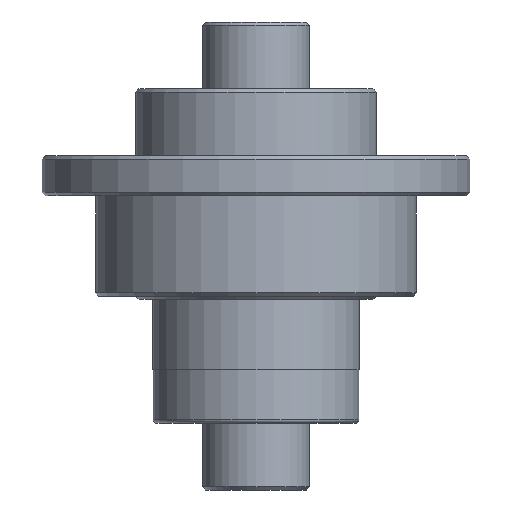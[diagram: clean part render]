
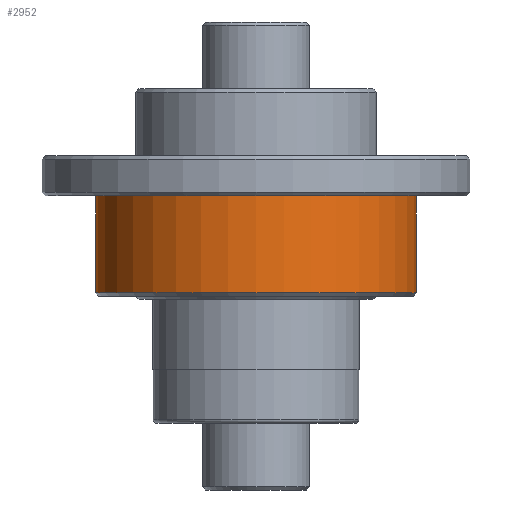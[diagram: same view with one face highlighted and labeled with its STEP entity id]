
A CAD part, front view. The second image highlights one B-rep face of the part: STEP entity #2952.
In plain terms, the highlighted cylindrical face has radius 24 mm (diameter 48 mm), a partial arc.
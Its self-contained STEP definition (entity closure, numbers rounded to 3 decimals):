
#195 = DIRECTION ( 'NONE',  ( 1., 0., 0. ) ) ;
#235 = ORIENTED_EDGE ( 'NONE', *, *, #2869, .T. ) ;
#256 = CARTESIAN_POINT ( 'NONE',  ( -24., 0., -30.5 ) ) ;
#363 = AXIS2_PLACEMENT_3D ( 'NONE', #1022, #2894, #1292 ) ;
#371 = AXIS2_PLACEMENT_3D ( 'NONE', #2046, #2309, #195 ) ;
#429 = DIRECTION ( 'NONE',  ( 0., 0., 1. ) ) ;
#438 = LINE ( 'NONE', #3212, #971 ) ;
#681 = DIRECTION ( 'NONE',  ( 0., 0., 1. ) ) ;
#695 = VERTEX_POINT ( 'NONE', #2311 ) ;
#783 = EDGE_CURVE ( 'NONE', #695, #866, #1233, .T. ) ;
#851 = EDGE_CURVE ( 'NONE', #1481, #1114, #438, .T. ) ;
#866 = VERTEX_POINT ( 'NONE', #2967 ) ;
#971 = VECTOR ( 'NONE', #2419, 1000. ) ;
#1022 = CARTESIAN_POINT ( 'NONE',  ( 0., 0., -30.5 ) ) ;
#1114 = VERTEX_POINT ( 'NONE', #2516 ) ;
#1233 = LINE ( 'NONE', #2525, #3032 ) ;
#1236 = CYLINDRICAL_SURFACE ( 'NONE', #371, 24. ) ;
#1292 = DIRECTION ( 'NONE',  ( 1., 0., 0. ) ) ;
#1339 = ORIENTED_EDGE ( 'NONE', *, *, #851, .F. ) ;
#1372 = EDGE_LOOP ( 'NONE', ( #1339, #235, #2240, #3271 ) ) ;
#1481 = VERTEX_POINT ( 'NONE', #256 ) ;
#1721 = AXIS2_PLACEMENT_3D ( 'NONE', #2012, #429, #2280 ) ;
#1818 = FACE_OUTER_BOUND ( 'NONE', #1372, .T. ) ;
#2012 = CARTESIAN_POINT ( 'NONE',  ( 0., 0., -16. ) ) ;
#2046 = CARTESIAN_POINT ( 'NONE',  ( 0., 0., 2. ) ) ;
#2240 = ORIENTED_EDGE ( 'NONE', *, *, #783, .T. ) ;
#2280 = DIRECTION ( 'NONE',  ( 1., 0., 0. ) ) ;
#2309 = DIRECTION ( 'NONE',  ( 0., 0., 1. ) ) ;
#2311 = CARTESIAN_POINT ( 'NONE',  ( 24., 0., -30.5 ) ) ;
#2419 = DIRECTION ( 'NONE',  ( 0., 0., 1. ) ) ;
#2462 = EDGE_CURVE ( 'NONE', #1114, #866, #2622, .T. ) ;
#2516 = CARTESIAN_POINT ( 'NONE',  ( -24., 0., -16. ) ) ;
#2525 = CARTESIAN_POINT ( 'NONE',  ( 24., 0., 2. ) ) ;
#2622 = CIRCLE ( 'NONE', #1721, 24. ) ;
#2869 = EDGE_CURVE ( 'NONE', #1481, #695, #3411, .T. ) ;
#2894 = DIRECTION ( 'NONE',  ( 0., 0., 1. ) ) ;
#2952 = ADVANCED_FACE ( 'NONE', ( #1818 ), #1236, .T. ) ;
#2967 = CARTESIAN_POINT ( 'NONE',  ( 24., 0., -16. ) ) ;
#3032 = VECTOR ( 'NONE', #681, 1000. ) ;
#3212 = CARTESIAN_POINT ( 'NONE',  ( -24., 0., 2. ) ) ;
#3271 = ORIENTED_EDGE ( 'NONE', *, *, #2462, .F. ) ;
#3411 = CIRCLE ( 'NONE', #363, 24. ) ;
